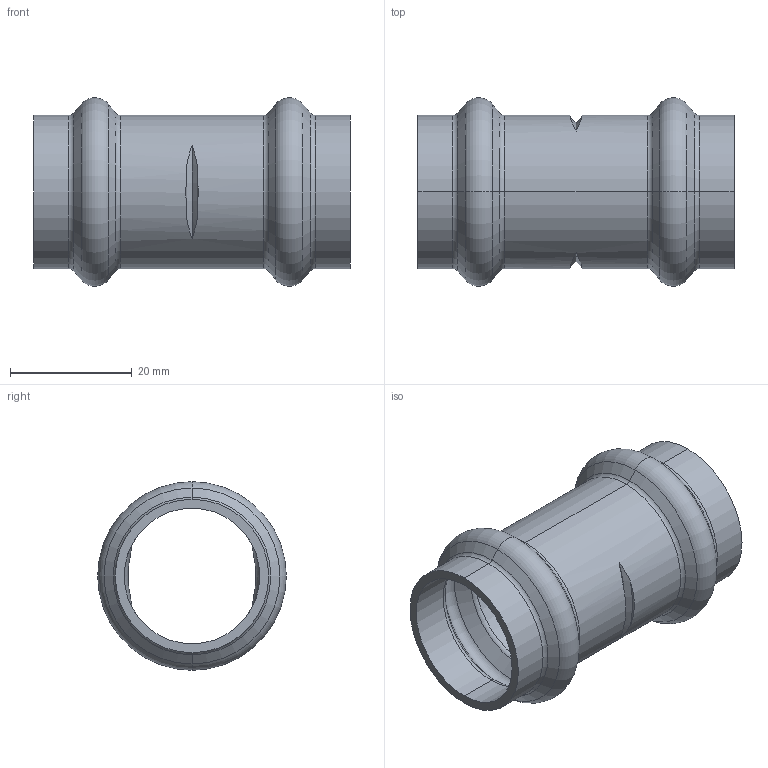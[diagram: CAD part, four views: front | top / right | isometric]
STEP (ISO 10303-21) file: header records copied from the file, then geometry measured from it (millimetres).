
FILE_DESCRIPTION (( 'STEP AP203' ), '1' );
FILE_NAME ('SP5270 22.STEP', '2017-04-24T09:18:29', ( '' ), ( '' ), 'SwSTEP 2.0', 'SolidWorks 2016', '' );
FILE_SCHEMA (( 'CONFIG_CONTROL_DESIGN' ));
Length unit declared in the file: millimetre
Products named in the file (1): SP5270 22
Bounding box: 52 x 31 x 31 mm (x, y, z)
Volume: 6310.4 mm3; surface area: 9115.4 mm2
Topology: 1 solids, 1 shells, 66 faces, 132 edges, 72 vertices
Faces by surface type: torus 28, cone 24, cylinder 12, plane 2
Entity records: 1959 total; most frequent: CARTESIAN_POINT 481, DIRECTION 338, ORIENTED_EDGE 264, AXIS2_PLACEMENT_3D 155, EDGE_CURVE 132, CIRCLE 88, VERTEX_POINT 72, EDGE_LOOP 72
